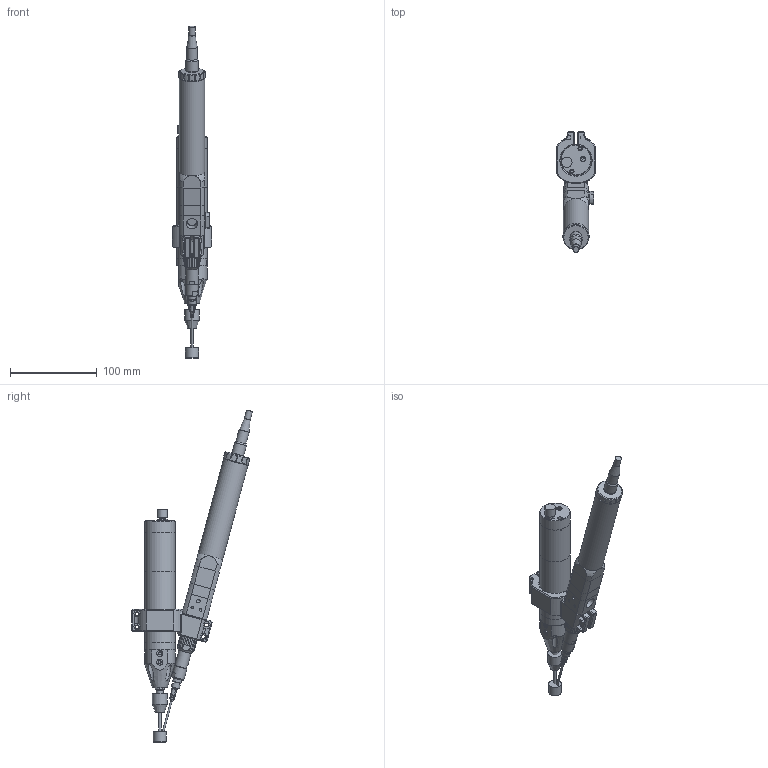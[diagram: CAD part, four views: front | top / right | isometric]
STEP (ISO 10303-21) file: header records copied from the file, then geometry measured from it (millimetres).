
FILE_DESCRIPTION (( 'STEP AP214' ), '1' );
FILE_NAME ('DAVR-1000-PCP150.STEP', '2024-10-11T10:21:15', ( '' ), ( '' ), 'SwSTEP 2.0', 'SolidWorks 2024', '' );
FILE_SCHEMA (( 'AUTOMOTIVE_DESIGN' ));
Length unit declared in the file: millimetre
Products named in the file (1): DAVR-1000-PCP150
Bounding box: 45 x 139.05 x 382.08 mm (x, y, z)
Volume: 365394.5 mm3; surface area: 96977.9 mm2
Topology: 29 solids, 29 shells, 889 faces, 2160 edges, 1394 vertices
Faces by surface type: plane 481, cylinder 215, cone 114, bspline 64, torus 12, sphere 3
Full cylindrical faces by diameter (mm): 1 x3, 1.562 x1, 1.676 x1, 1.841 x2, 1.854 x1, 2 x1, 2.5 x1, 2.87 x1, 3 x8, 3.2 x2, 3.3 x2, 3.5 x2, 3.8 x1, 4.2 x1, 4.3 x8, 5 x8, 5.5 x4, 5.8 x3, 6 x6, 6.5 x4, 6.655 x1, 6.9 x2, 7 x4, 7.9 x1, 8 x5, 9 x1, 9.5 x1, 10 x2, 10.7 x1, 11 x1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
Entity records: 27677 total; most frequent: CARTESIAN_POINT 8327, ORIENTED_EDGE 3816, DIRECTION 3684, EDGE_CURVE 1908, AXIS2_PLACEMENT_3D 1370, VERTEX_POINT 1313, EDGE_LOOP 1151, FACE_OUTER_BOUND 1005
